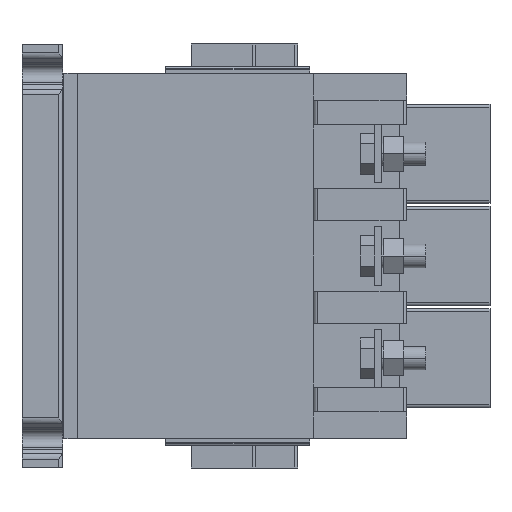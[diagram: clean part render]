
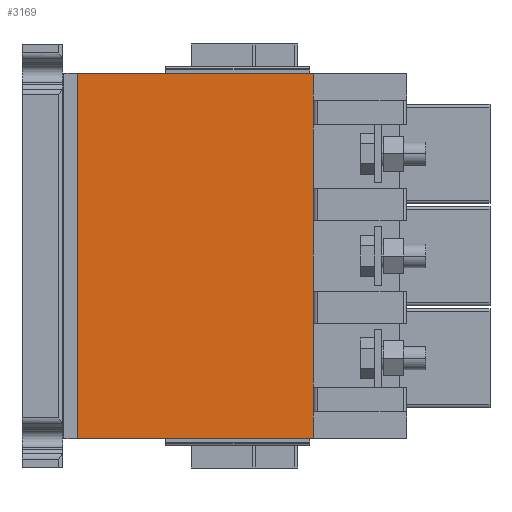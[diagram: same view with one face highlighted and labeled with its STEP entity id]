
A CAD part, front view. The second image highlights one B-rep face of the part: STEP entity #3169.
In plain terms, the highlighted planar face has unit normal (0, -1, 0).
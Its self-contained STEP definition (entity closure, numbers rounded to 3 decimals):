
#3169 = ADVANCED_FACE( '', ( #7834 ), #7835, .T. );
#3689 = EDGE_CURVE( '', #4261, #6505, #8400, .T. );
#4021 = EDGE_CURVE( '', #4071, #4261, #8768, .T. );
#4071 = VERTEX_POINT( '', #8822 );
#4123 = VERTEX_POINT( '', #8879 );
#4261 = VERTEX_POINT( '', #9040 );
#4763 = EDGE_CURVE( '', #4071, #4123, #9597, .T. );
#6101 = EDGE_CURVE( '', #4123, #6505, #11065, .T. );
#6505 = VERTEX_POINT( '', #11517 );
#7834 = FACE_OUTER_BOUND( '', #13286, .T. );
#7835 = PLANE( '', #13287 );
#8400 = LINE( '', #14090, #14091 );
#8768 = LINE( '', #14595, #14596 );
#8822 = CARTESIAN_POINT( '', ( -286.55, -97.2, 125. ) );
#8879 = CARTESIAN_POINT( '', ( -117., -97.2, 125. ) );
#9040 = CARTESIAN_POINT( '', ( -286.55, -97.2, -125. ) );
#9597 = LINE( '', #15742, #15743 );
#11065 = LINE( '', #17806, #17807 );
#11517 = CARTESIAN_POINT( '', ( -117., -97.2, -125. ) );
#13286 = EDGE_LOOP( '', ( #19899, #19900, #19901, #19902 ) );
#13287 = AXIS2_PLACEMENT_3D( '', #19903, #19904, #19905 );
#14090 = CARTESIAN_POINT( '', ( -286.55, -97.2, -125. ) );
#14091 = VECTOR( '', #20510, 1. );
#14595 = CARTESIAN_POINT( '', ( -286.55, -97.2, 125. ) );
#14596 = VECTOR( '', #20959, 1. );
#15742 = CARTESIAN_POINT( '', ( -286.55, -97.2, 125. ) );
#15743 = VECTOR( '', #21917, 1. );
#17806 = CARTESIAN_POINT( '', ( -117., -97.2, 125. ) );
#17807 = VECTOR( '', #23434, 1. );
#19899 = ORIENTED_EDGE( '', *, *, #3689, .T. );
#19900 = ORIENTED_EDGE( '', *, *, #6101, .F. );
#19901 = ORIENTED_EDGE( '', *, *, #4763, .F. );
#19902 = ORIENTED_EDGE( '', *, *, #4021, .T. );
#19903 = CARTESIAN_POINT( '', ( -286.55, -97.2, 125. ) );
#19904 = DIRECTION( '', ( 0., -1., 0. ) );
#19905 = DIRECTION( '', ( -1., 0., 0. ) );
#20510 = DIRECTION( '', ( 1., 0., 0. ) );
#20959 = DIRECTION( '', ( 0., 0., -1. ) );
#21917 = DIRECTION( '', ( 1., 0., 0. ) );
#23434 = DIRECTION( '', ( 0., 0., -1. ) );
